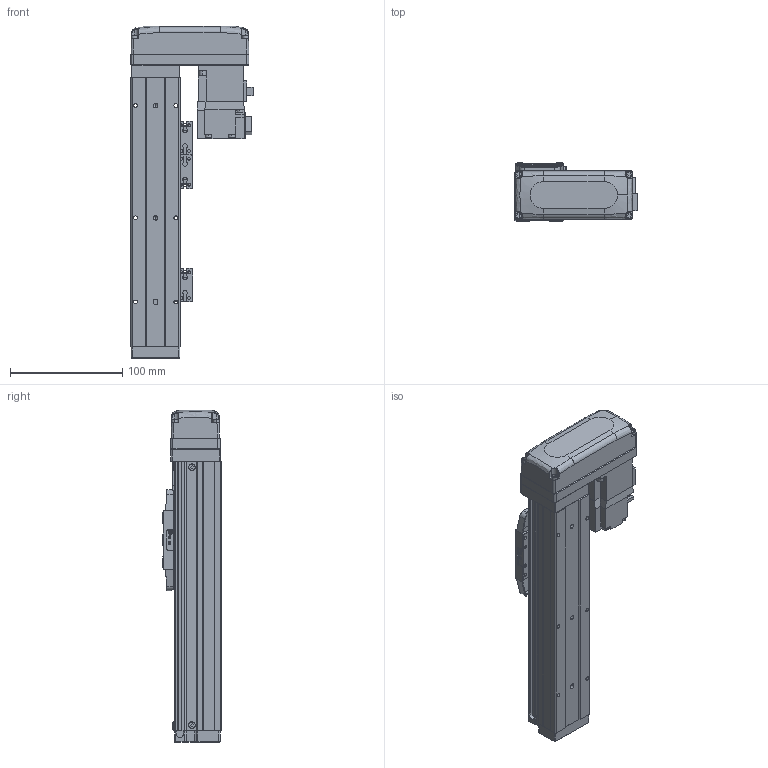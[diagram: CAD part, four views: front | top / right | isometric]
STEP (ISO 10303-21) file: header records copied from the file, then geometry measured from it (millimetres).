
FILE_DESCRIPTION (( 'STEP AP203' ), '1' );
FILE_NAME ('GTH4-100-BL-M05-C4.STEP', '2024-01-05T01:05:04', ( '' ), ( '' ), 'SwSTEP 2.0', 'SolidWorks 2020', '' );
FILE_SCHEMA (( 'CONFIG_CONTROL_DESIGN' ));
Length unit declared in the file: millimetre
Products named in the file (19): BTH50-024; BTH40-027-1; GTH4-100-BL-M05-C4; BTH40-013; BTH40-001-50_BTH40-001-100; GBT 70.1-M3℅6; BTH50-023; BTH50-026; BTH-M3X5X6; BTH40-003; GBT70.1-2000 M3×16; GBT96.1-2002 3×0.8; BTH40-004; GBT 70.1-M2.5×6; HG-KR13; BTH50-028; GBT 70.3-M3℅6; BTH40-006; BTH40-022
Assembly tree (47 placements, depth 2):
  GTH4-100-BL-M05-C4
    BTH40-001-50_BTH40-001-100
    BTH40-003
    BTH40-006
    BTH-M3X5X6  x8
    GBT70.1-2000 M3×16  x4
    BTH50-028  x2
    BTH50-023  x3
    BTH50-024  x3
    GBT 70.1-M3℅6  x6
    GBT96.1-2002 3×0.8  x6
    BTH40-022
    GBT 70.1-M2.5×6  x2
    BTH40-004
    BTH40-013
    HG-KR13
    GBT 70.3-M3℅6  x4
    BTH40-027-1
    BTH50-026
Bounding box: 108.8 x 52 x 296 mm (x, y, z)
Volume: 688617.5 mm3; surface area: 146340.1 mm2
Topology: 49 solids, 49 shells, 1947 faces, 4571 edges, 2814 vertices
Faces by surface type: plane 1052, cylinder 479, cone 250, torus 128, bspline 34, sphere 4
Entity records: 38599 total; most frequent: CARTESIAN_POINT 7418, DIRECTION 6012, ORIENTED_EDGE 5788, EDGE_CURVE 2894, AXIS2_PLACEMENT_3D 2043, LINE 1926, VECTOR 1926, VERTEX_POINT 1801
